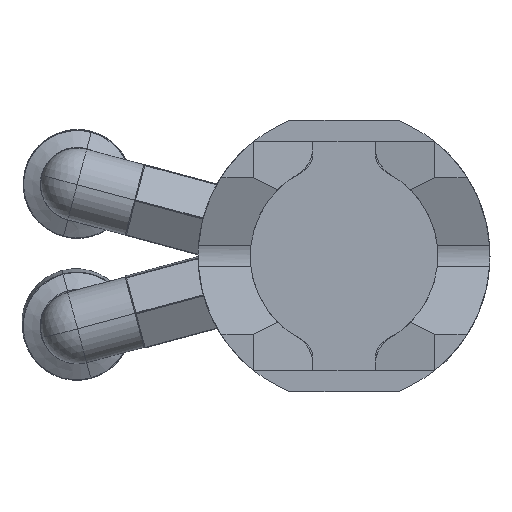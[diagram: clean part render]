
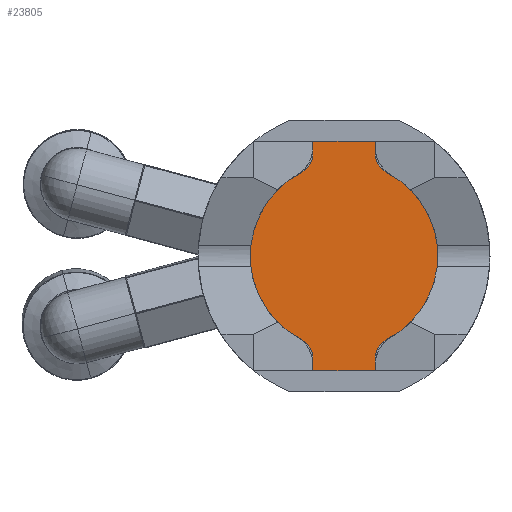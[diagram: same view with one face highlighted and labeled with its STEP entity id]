
A CAD part, front view. The second image highlights one B-rep face of the part: STEP entity #23805.
In plain terms, the highlighted planar face has unit normal (0, -1, 0).
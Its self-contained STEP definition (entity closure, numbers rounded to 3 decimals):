
#112 = VERTEX_POINT ( 'NONE', #17236 ) ;
#347 = EDGE_CURVE ( 'NONE', #13266, #112, #23773, .T. ) ;
#566 = AXIS2_PLACEMENT_3D ( 'NONE', #15171, #20919, #3883 ) ;
#614 = ORIENTED_EDGE ( 'NONE', *, *, #8700, .T. ) ;
#706 = VERTEX_POINT ( 'NONE', #12075 ) ;
#1029 = DIRECTION ( 'NONE',  ( 0., 1., 0. ) ) ;
#1054 = VECTOR ( 'NONE', #12427, 1000. ) ;
#1174 = CARTESIAN_POINT ( 'NONE',  ( -3., 0., -9.798 ) ) ;
#1293 = CARTESIAN_POINT ( 'NONE',  ( 0., 0., 11. ) ) ;
#1664 = EDGE_CURVE ( 'NONE', #15085, #22480, #17740, .T. ) ;
#2278 = DIRECTION ( 'NONE',  ( 0., -1., 0. ) ) ;
#2846 = ORIENTED_EDGE ( 'NONE', *, *, #4800, .T. ) ;
#3021 = EDGE_CURVE ( 'NONE', #6682, #23001, #11088, .T. ) ;
#3075 = VERTEX_POINT ( 'NONE', #5217 ) ;
#3370 = CIRCLE ( 'NONE', #566, 2. ) ;
#3542 = VERTEX_POINT ( 'NONE', #20162 ) ;
#3555 = DIRECTION ( 'NONE',  ( 0., 1., 0. ) ) ;
#3606 = ORIENTED_EDGE ( 'NONE', *, *, #7010, .T. ) ;
#3689 = CARTESIAN_POINT ( 'NONE',  ( 3., 0., -9.798 ) ) ;
#3883 = DIRECTION ( 'NONE',  ( 0., 0., 1. ) ) ;
#3903 = VERTEX_POINT ( 'NONE', #6334 ) ;
#4355 = EDGE_CURVE ( 'NONE', #706, #3542, #3370, .T. ) ;
#4515 = VECTOR ( 'NONE', #23509, 1000. ) ;
#4800 = EDGE_CURVE ( 'NONE', #22480, #3075, #18211, .T. ) ;
#4877 = CARTESIAN_POINT ( 'NONE',  ( -5., 0., -9.798 ) ) ;
#5052 = CARTESIAN_POINT ( 'NONE',  ( 5., 0., 9.798 ) ) ;
#5162 = CARTESIAN_POINT ( 'NONE',  ( 4.091, 0., 8.017 ) ) ;
#5217 = CARTESIAN_POINT ( 'NONE',  ( 4.091, 0., -8.017 ) ) ;
#6042 = CARTESIAN_POINT ( 'NONE',  ( 0., 0., 0. ) ) ;
#6275 = VECTOR ( 'NONE', #14410, 1000. ) ;
#6334 = CARTESIAN_POINT ( 'NONE',  ( -4.091, 0., -8.017 ) ) ;
#6555 = CARTESIAN_POINT ( 'NONE',  ( 0., 0., 0. ) ) ;
#6578 = CARTESIAN_POINT ( 'NONE',  ( 3., 0., 0. ) ) ;
#6606 = EDGE_CURVE ( 'NONE', #3542, #3903, #8303, .T. ) ;
#6677 = DIRECTION ( 'NONE',  ( 0., 0., 1. ) ) ;
#6682 = VERTEX_POINT ( 'NONE', #1174 ) ;
#6779 = CARTESIAN_POINT ( 'NONE',  ( 0., 0., -11. ) ) ;
#6801 = FACE_OUTER_BOUND ( 'NONE', #15925, .T. ) ;
#6931 = LINE ( 'NONE', #1293, #1054 ) ;
#7010 = EDGE_CURVE ( 'NONE', #3075, #17476, #17188, .T. ) ;
#7805 = CIRCLE ( 'NONE', #8212, 2. ) ;
#8212 = AXIS2_PLACEMENT_3D ( 'NONE', #5052, #3555, #16726 ) ;
#8303 = CIRCLE ( 'NONE', #18707, 9. ) ;
#8486 = DIRECTION ( 'NONE',  ( 0., 0., 1. ) ) ;
#8528 = DIRECTION ( 'NONE',  ( 0., 0., 1. ) ) ;
#8644 = CARTESIAN_POINT ( 'NONE',  ( 3., 0., 0. ) ) ;
#8700 = EDGE_CURVE ( 'NONE', #17476, #13266, #7805, .T. ) ;
#8987 = DIRECTION ( 'NONE',  ( 0., 0., -1. ) ) ;
#9214 = ORIENTED_EDGE ( 'NONE', *, *, #347, .T. ) ;
#9345 = ORIENTED_EDGE ( 'NONE', *, *, #3021, .T. ) ;
#9360 = ORIENTED_EDGE ( 'NONE', *, *, #19822, .T. ) ;
#9517 = CARTESIAN_POINT ( 'NONE',  ( -3., 0., -11. ) ) ;
#9961 = AXIS2_PLACEMENT_3D ( 'NONE', #6042, #2278, #21299 ) ;
#10365 = CARTESIAN_POINT ( 'NONE',  ( 5., 0., -9.798 ) ) ;
#10537 = DIRECTION ( 'NONE',  ( 0., -1., 0. ) ) ;
#11088 = LINE ( 'NONE', #16765, #17647 ) ;
#11928 = VECTOR ( 'NONE', #13973, 1000. ) ;
#12075 = CARTESIAN_POINT ( 'NONE',  ( -3., 0., 9.798 ) ) ;
#12261 = DIRECTION ( 'NONE',  ( 1., 0., 0. ) ) ;
#12269 = CARTESIAN_POINT ( 'NONE',  ( -3., 0., 11. ) ) ;
#12427 = DIRECTION ( 'NONE',  ( -1., 0., 0. ) ) ;
#13266 = VERTEX_POINT ( 'NONE', #22859 ) ;
#13973 = DIRECTION ( 'NONE',  ( 0., 0., 1. ) ) ;
#14016 = LINE ( 'NONE', #15395, #4515 ) ;
#14372 = AXIS2_PLACEMENT_3D ( 'NONE', #23800, #1029, #6677 ) ;
#14410 = DIRECTION ( 'NONE',  ( 0., 0., 1. ) ) ;
#14682 = ORIENTED_EDGE ( 'NONE', *, *, #15361, .T. ) ;
#15085 = VERTEX_POINT ( 'NONE', #24529 ) ;
#15171 = CARTESIAN_POINT ( 'NONE',  ( -5., 0., 9.798 ) ) ;
#15361 = EDGE_CURVE ( 'NONE', #23001, #15085, #23649, .T. ) ;
#15395 = CARTESIAN_POINT ( 'NONE',  ( -3., 0., 0. ) ) ;
#15925 = EDGE_LOOP ( 'NONE', ( #18113, #9360, #9345, #14682, #16077, #2846, #3606, #614, #9214, #23550, #22783, #17637 ) ) ;
#16077 = ORIENTED_EDGE ( 'NONE', *, *, #1664, .T. ) ;
#16587 = EDGE_CURVE ( 'NONE', #17855, #706, #14016, .T. ) ;
#16726 = DIRECTION ( 'NONE',  ( 0., 0., 1. ) ) ;
#16765 = CARTESIAN_POINT ( 'NONE',  ( -3., 0., 0. ) ) ;
#17188 = CIRCLE ( 'NONE', #9961, 9. ) ;
#17236 = CARTESIAN_POINT ( 'NONE',  ( 3., 0., 11. ) ) ;
#17408 = EDGE_CURVE ( 'NONE', #112, #17855, #6931, .T. ) ;
#17476 = VERTEX_POINT ( 'NONE', #5162 ) ;
#17637 = ORIENTED_EDGE ( 'NONE', *, *, #4355, .T. ) ;
#17647 = VECTOR ( 'NONE', #8987, 1000. ) ;
#17740 = LINE ( 'NONE', #6578, #11928 ) ;
#17741 = CIRCLE ( 'NONE', #22110, 2. ) ;
#17855 = VERTEX_POINT ( 'NONE', #12269 ) ;
#18023 = DIRECTION ( 'NONE',  ( 0., 1., 0. ) ) ;
#18113 = ORIENTED_EDGE ( 'NONE', *, *, #6606, .T. ) ;
#18211 = CIRCLE ( 'NONE', #24154, 2. ) ;
#18707 = AXIS2_PLACEMENT_3D ( 'NONE', #6555, #10537, #19825 ) ;
#19822 = EDGE_CURVE ( 'NONE', #3903, #6682, #17741, .T. ) ;
#19825 = DIRECTION ( 'NONE',  ( 0., 0., -1. ) ) ;
#20162 = CARTESIAN_POINT ( 'NONE',  ( -4.091, 0., 8.017 ) ) ;
#20919 = DIRECTION ( 'NONE',  ( 0., 1., 0. ) ) ;
#21299 = DIRECTION ( 'NONE',  ( 0., 0., -1. ) ) ;
#21563 = PLANE ( 'NONE',  #14372 ) ;
#22052 = VECTOR ( 'NONE', #12261, 1000. ) ;
#22110 = AXIS2_PLACEMENT_3D ( 'NONE', #4877, #23906, #8528 ) ;
#22480 = VERTEX_POINT ( 'NONE', #3689 ) ;
#22783 = ORIENTED_EDGE ( 'NONE', *, *, #16587, .T. ) ;
#22859 = CARTESIAN_POINT ( 'NONE',  ( 3., 0., 9.798 ) ) ;
#23001 = VERTEX_POINT ( 'NONE', #9517 ) ;
#23509 = DIRECTION ( 'NONE',  ( 0., 0., -1. ) ) ;
#23550 = ORIENTED_EDGE ( 'NONE', *, *, #17408, .T. ) ;
#23649 = LINE ( 'NONE', #6779, #22052 ) ;
#23773 = LINE ( 'NONE', #8644, #6275 ) ;
#23800 = CARTESIAN_POINT ( 'NONE',  ( 0., 0., 0. ) ) ;
#23805 = ADVANCED_FACE ( 'NONE', ( #6801 ), #21563, .F. ) ;
#23906 = DIRECTION ( 'NONE',  ( 0., 1., 0. ) ) ;
#24154 = AXIS2_PLACEMENT_3D ( 'NONE', #10365, #18023, #8486 ) ;
#24529 = CARTESIAN_POINT ( 'NONE',  ( 3., 0., -11. ) ) ;
